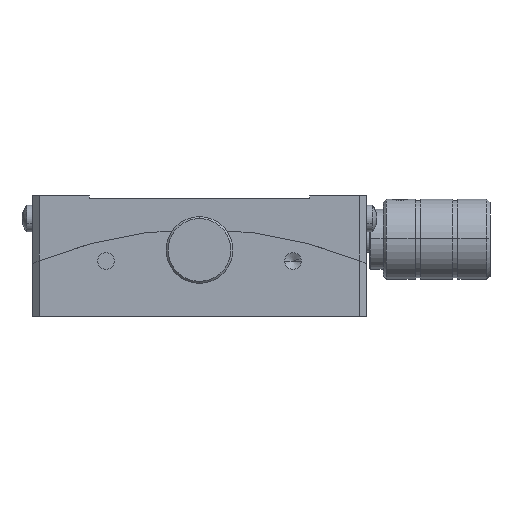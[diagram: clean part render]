
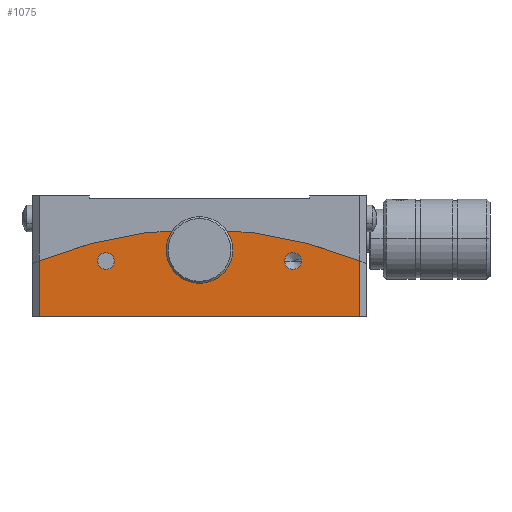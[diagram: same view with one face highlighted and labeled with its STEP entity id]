
A CAD part, front view. The second image highlights one B-rep face of the part: STEP entity #1075.
In plain terms, the highlighted planar face has unit normal (0, -1, 0).
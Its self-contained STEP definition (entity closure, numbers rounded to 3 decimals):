
#106 = CARTESIAN_POINT ( 'NONE',  ( 24., -25., -63. ) ) ;
#285 = AXIS2_PLACEMENT_3D ( 'NONE', #11056, #17529, #26976 ) ;
#387 = EDGE_CURVE ( 'NONE', #20059, #3394, #402, .T. ) ;
#402 = LINE ( 'NONE', #11816, #14132 ) ;
#515 = EDGE_CURVE ( 'NONE', #8860, #25128, #6462, .T. ) ;
#1017 = CARTESIAN_POINT ( 'NONE',  ( -14., -25., 58.241 ) ) ;
#1075 = ADVANCED_FACE ( 'NONE', ( #23073, #27576, #20821, #9558 ), #9856, .T. ) ;
#1213 = AXIS2_PLACEMENT_3D ( 'NONE', #11956, #16752, #16151 ) ;
#1384 = DIRECTION ( 'NONE',  ( 0., -1., 0. ) ) ;
#2730 = AXIS2_PLACEMENT_3D ( 'NONE', #6868, #29498, #25634 ) ;
#2868 = ORIENTED_EDGE ( 'NONE', *, *, #25491, .F. ) ;
#2958 = ORIENTED_EDGE ( 'NONE', *, *, #515, .F. ) ;
#3004 = VECTOR ( 'NONE', #7354, 1000. ) ;
#3394 = VERTEX_POINT ( 'NONE', #14538 ) ;
#3642 = EDGE_CURVE ( 'NONE', #11909, #15751, #15681, .T. ) ;
#4134 = VERTEX_POINT ( 'NONE', #28469 ) ;
#4468 = CARTESIAN_POINT ( 'NONE',  ( 14., -25., 56.991 ) ) ;
#5157 = ORIENTED_EDGE ( 'NONE', *, *, #16856, .F. ) ;
#5782 = ORIENTED_EDGE ( 'NONE', *, *, #3642, .F. ) ;
#6194 = DIRECTION ( 'NONE',  ( 0., 0., 1. ) ) ;
#6462 = CIRCLE ( 'NONE', #12219, 1.25 ) ;
#6729 = CIRCLE ( 'NONE', #8688, 1.25 ) ;
#6868 = CARTESIAN_POINT ( 'NONE',  ( 0., -25., 59.9 ) ) ;
#6946 = VERTEX_POINT ( 'NONE', #24451 ) ;
#7021 = DIRECTION ( 'NONE',  ( 0., 0., -1. ) ) ;
#7027 = LINE ( 'NONE', #106, #8708 ) ;
#7354 = DIRECTION ( 'NONE',  ( 1., 0., 0. ) ) ;
#7934 = DIRECTION ( 'NONE',  ( 0., 0., 1. ) ) ;
#8443 = CARTESIAN_POINT ( 'NONE',  ( -24., -25., 58.249 ) ) ;
#8508 = CIRCLE ( 'NONE', #15639, 63. ) ;
#8688 = AXIS2_PLACEMENT_3D ( 'NONE', #21824, #1384, #6194 ) ;
#8708 = VECTOR ( 'NONE', #11976, 1000. ) ;
#8860 = VERTEX_POINT ( 'NONE', #25199 ) ;
#8924 = EDGE_CURVE ( 'NONE', #6946, #21678, #7027, .T. ) ;
#9446 = CARTESIAN_POINT ( 'NONE',  ( -14., -25., 56.991 ) ) ;
#9558 = FACE_OUTER_BOUND ( 'NONE', #27982, .T. ) ;
#9589 = LINE ( 'NONE', #14095, #3004 ) ;
#9856 = PLANE ( 'NONE',  #1213 ) ;
#10762 = ORIENTED_EDGE ( 'NONE', *, *, #387, .T. ) ;
#11056 = CARTESIAN_POINT ( 'NONE',  ( 14., -25., 58.241 ) ) ;
#11777 = DIRECTION ( 'NONE',  ( 0., 0., 1. ) ) ;
#11816 = CARTESIAN_POINT ( 'NONE',  ( -24., -25., -63. ) ) ;
#11909 = VERTEX_POINT ( 'NONE', #20127 ) ;
#11956 = CARTESIAN_POINT ( 'NONE',  ( 0., -25., -63. ) ) ;
#11976 = DIRECTION ( 'NONE',  ( 0., 0., 1. ) ) ;
#12219 = AXIS2_PLACEMENT_3D ( 'NONE', #1017, #19337, #7934 ) ;
#12659 = CARTESIAN_POINT ( 'NONE',  ( 24., -25., 58.249 ) ) ;
#12905 = EDGE_LOOP ( 'NONE', ( #2958, #23624 ) ) ;
#13028 = DIRECTION ( 'NONE',  ( 0., -1., 0. ) ) ;
#13775 = DIRECTION ( 'NONE',  ( 0., 0., -1. ) ) ;
#13879 = CARTESIAN_POINT ( 'NONE',  ( -14., -25., 58.241 ) ) ;
#14095 = CARTESIAN_POINT ( 'NONE',  ( 25., -25., 50. ) ) ;
#14132 = VECTOR ( 'NONE', #7021, 1000. ) ;
#14538 = CARTESIAN_POINT ( 'NONE',  ( -24., -25., 50. ) ) ;
#15006 = EDGE_CURVE ( 'NONE', #3394, #6946, #9589, .T. ) ;
#15317 = ORIENTED_EDGE ( 'NONE', *, *, #23334, .F. ) ;
#15639 = AXIS2_PLACEMENT_3D ( 'NONE', #25200, #18432, #13775 ) ;
#15681 = CIRCLE ( 'NONE', #20015, 1.25 ) ;
#15751 = VERTEX_POINT ( 'NONE', #4468 ) ;
#15790 = EDGE_LOOP ( 'NONE', ( #5157, #2868 ) ) ;
#16151 = DIRECTION ( 'NONE',  ( 0., 0., 1. ) ) ;
#16752 = DIRECTION ( 'NONE',  ( 0., -1., 0. ) ) ;
#16856 = EDGE_CURVE ( 'NONE', #4134, #27445, #6729, .T. ) ;
#17529 = DIRECTION ( 'NONE',  ( 0., -1., 0. ) ) ;
#18432 = DIRECTION ( 'NONE',  ( 0., 1., 0. ) ) ;
#19337 = DIRECTION ( 'NONE',  ( 0., -1., 0. ) ) ;
#19580 = EDGE_CURVE ( 'NONE', #25128, #8860, #26925, .T. ) ;
#20015 = AXIS2_PLACEMENT_3D ( 'NONE', #26548, #13028, #22193 ) ;
#20059 = VERTEX_POINT ( 'NONE', #8443 ) ;
#20127 = CARTESIAN_POINT ( 'NONE',  ( 14., -25., 59.491 ) ) ;
#20821 = FACE_BOUND ( 'NONE', #15790, .T. ) ;
#21452 = EDGE_LOOP ( 'NONE', ( #5782, #25217 ) ) ;
#21678 = VERTEX_POINT ( 'NONE', #12659 ) ;
#21824 = CARTESIAN_POINT ( 'NONE',  ( 0., -25., 59.9 ) ) ;
#21993 = ORIENTED_EDGE ( 'NONE', *, *, #8924, .T. ) ;
#22134 = AXIS2_PLACEMENT_3D ( 'NONE', #13879, #23192, #11777 ) ;
#22193 = DIRECTION ( 'NONE',  ( 0., 0., 1. ) ) ;
#23073 = FACE_BOUND ( 'NONE', #21452, .T. ) ;
#23192 = DIRECTION ( 'NONE',  ( 0., -1., 0. ) ) ;
#23297 = CIRCLE ( 'NONE', #285, 1.25 ) ;
#23334 = EDGE_CURVE ( 'NONE', #20059, #21678, #8508, .T. ) ;
#23624 = ORIENTED_EDGE ( 'NONE', *, *, #19580, .F. ) ;
#24100 = EDGE_CURVE ( 'NONE', #15751, #11909, #23297, .T. ) ;
#24200 = ORIENTED_EDGE ( 'NONE', *, *, #15006, .T. ) ;
#24451 = CARTESIAN_POINT ( 'NONE',  ( 24., -25., 50. ) ) ;
#25128 = VERTEX_POINT ( 'NONE', #9446 ) ;
#25199 = CARTESIAN_POINT ( 'NONE',  ( -14., -25., 59.491 ) ) ;
#25200 = CARTESIAN_POINT ( 'NONE',  ( 0., -25., 0. ) ) ;
#25217 = ORIENTED_EDGE ( 'NONE', *, *, #24100, .F. ) ;
#25491 = EDGE_CURVE ( 'NONE', #27445, #4134, #27164, .T. ) ;
#25634 = DIRECTION ( 'NONE',  ( 0., 0., 1. ) ) ;
#26343 = CARTESIAN_POINT ( 'NONE',  ( 0., -25., 58.65 ) ) ;
#26548 = CARTESIAN_POINT ( 'NONE',  ( 14., -25., 58.241 ) ) ;
#26925 = CIRCLE ( 'NONE', #22134, 1.25 ) ;
#26976 = DIRECTION ( 'NONE',  ( 0., 0., 1. ) ) ;
#27164 = CIRCLE ( 'NONE', #2730, 1.25 ) ;
#27445 = VERTEX_POINT ( 'NONE', #26343 ) ;
#27576 = FACE_BOUND ( 'NONE', #12905, .T. ) ;
#27982 = EDGE_LOOP ( 'NONE', ( #15317, #10762, #24200, #21993 ) ) ;
#28469 = CARTESIAN_POINT ( 'NONE',  ( 0., -25., 61.15 ) ) ;
#29498 = DIRECTION ( 'NONE',  ( 0., -1., 0. ) ) ;
